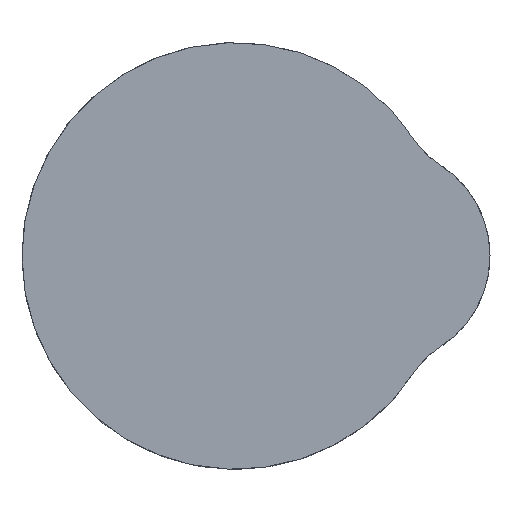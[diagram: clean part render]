
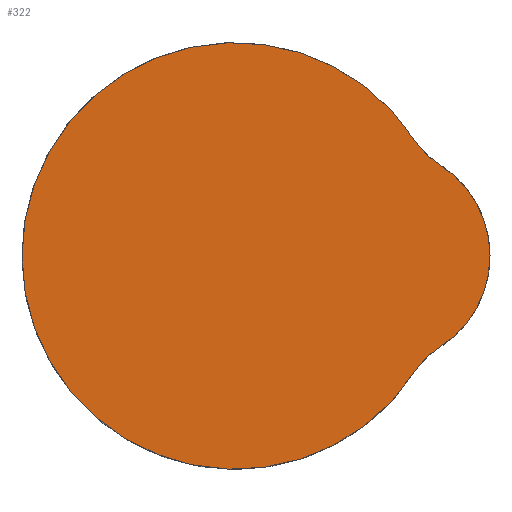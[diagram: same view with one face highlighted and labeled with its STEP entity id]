
A CAD part, front view. The second image highlights one B-rep face of the part: STEP entity #322.
In plain terms, the highlighted planar face has unit normal (0, -1, 0).
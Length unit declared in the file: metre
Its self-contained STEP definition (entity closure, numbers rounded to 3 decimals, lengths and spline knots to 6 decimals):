
#46=CIRCLE('',#361,0.075);
#48=CIRCLE('',#365,0.038);
#49=CIRCLE('',#366,0.03);
#50=CIRCLE('',#367,0.03);
#77=ORIENTED_EDGE('',*,*,#170,.F.);
#78=ORIENTED_EDGE('',*,*,#171,.T.);
#79=ORIENTED_EDGE('',*,*,#168,.F.);
#80=ORIENTED_EDGE('',*,*,#172,.T.);
#168=EDGE_CURVE('',#214,#211,#46,.T.);
#170=EDGE_CURVE('',#216,#217,#48,.T.);
#171=EDGE_CURVE('',#216,#211,#49,.T.);
#172=EDGE_CURVE('',#214,#217,#50,.T.);
#211=VERTEX_POINT('',#506);
#214=VERTEX_POINT('',#513);
#216=VERTEX_POINT('',#520);
#217=VERTEX_POINT('',#521);
#273=EDGE_LOOP('',(#77,#78,#79,#80));
#295=FACE_BOUND('',#273,.T.);
#314=PLANE('',#364);
#322=ADVANCED_FACE('',(#295),#314,.F.);
#361=AXIS2_PLACEMENT_3D('',#514,#420,#421);
#364=AXIS2_PLACEMENT_3D('',#518,#426,#427);
#365=AXIS2_PLACEMENT_3D('',#519,#428,#429);
#366=AXIS2_PLACEMENT_3D('',#522,#430,#431);
#367=AXIS2_PLACEMENT_3D('',#523,#432,#433);
#420=DIRECTION('',(0.,1.,0.));
#421=DIRECTION('',(1.,0.,0.));
#426=DIRECTION('',(0.,1.,0.));
#427=DIRECTION('',(1.,0.,0.));
#428=DIRECTION('',(0.,1.,0.));
#429=DIRECTION('',(1.,0.,0.));
#430=DIRECTION('',(0.,1.,0.));
#431=DIRECTION('',(1.,0.,0.));
#432=DIRECTION('',(0.,1.,0.));
#433=DIRECTION('',(1.,0.,0.));
#506=CARTESIAN_POINT('',(0.062766,0.,0.041055));
#513=CARTESIAN_POINT('',(0.062766,0.,-0.041055));
#514=CARTESIAN_POINT('',(0.,0.,0.));
#518=CARTESIAN_POINT('',(0.,0.,0.));
#519=CARTESIAN_POINT('',(0.051534,0.,0.));
#520=CARTESIAN_POINT('',(0.07184,0.,0.032119));
#521=CARTESIAN_POINT('',(0.07184,0.,-0.032119));
#522=CARTESIAN_POINT('',(0.087872,0.,0.057477));
#523=CARTESIAN_POINT('',(0.087872,0.,-0.057477));
